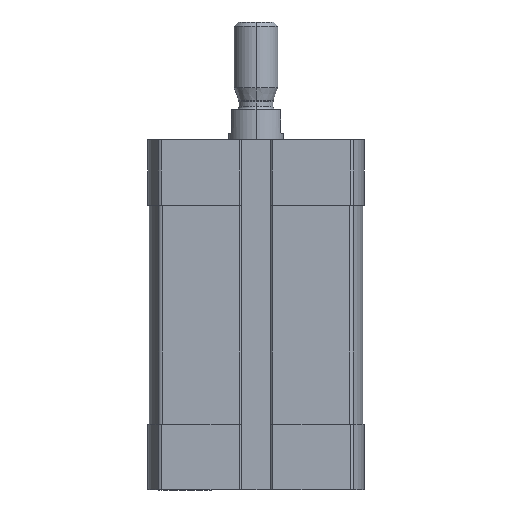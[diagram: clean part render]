
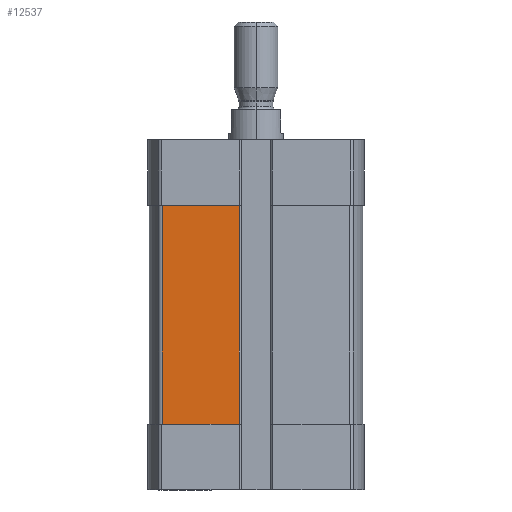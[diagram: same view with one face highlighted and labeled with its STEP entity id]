
A CAD part, left-side view. The second image highlights one B-rep face of the part: STEP entity #12537.
In plain terms, the highlighted planar face has unit normal (-1, 0, 0).
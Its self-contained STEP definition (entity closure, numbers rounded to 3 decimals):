
#770 = LINE ( 'NONE', #6632, #2987 ) ;
#1826 = VECTOR ( 'NONE', #12257, 1000. ) ;
#2037 = VECTOR ( 'NONE', #5203, 1000. ) ;
#2521 = VECTOR ( 'NONE', #9574, 1000. ) ;
#2841 = EDGE_CURVE ( 'NONE', #4312, #7330, #10505, .T. ) ;
#2941 = CARTESIAN_POINT ( 'NONE',  ( -19.5, 3.1, -12. ) ) ;
#2987 = VECTOR ( 'NONE', #5574, 1000. ) ;
#3186 = PLANE ( 'NONE',  #5069 ) ;
#4119 = CARTESIAN_POINT ( 'NONE',  ( -19.5, 0., -12. ) ) ;
#4312 = VERTEX_POINT ( 'NONE', #2941 ) ;
#4724 = EDGE_CURVE ( 'NONE', #7330, #9356, #4962, .T. ) ;
#4836 = EDGE_CURVE ( 'NONE', #9545, #4312, #770, .T. ) ;
#4962 = LINE ( 'NONE', #5329, #1826 ) ;
#5069 = AXIS2_PLACEMENT_3D ( 'NONE', #5325, #12252, #6411 ) ;
#5203 = DIRECTION ( 'NONE',  ( 0., 1., 0. ) ) ;
#5325 = CARTESIAN_POINT ( 'NONE',  ( -19.5, 17.091, -52. ) ) ;
#5329 = CARTESIAN_POINT ( 'NONE',  ( -19.5, 17.091, -52. ) ) ;
#5534 = EDGE_CURVE ( 'NONE', #9356, #9545, #10614, .T. ) ;
#5574 = DIRECTION ( 'NONE',  ( 0., 0., 1. ) ) ;
#6411 = DIRECTION ( 'NONE',  ( 0., 0., 1. ) ) ;
#6632 = CARTESIAN_POINT ( 'NONE',  ( -19.5, 3.1, -52. ) ) ;
#7330 = VERTEX_POINT ( 'NONE', #13159 ) ;
#8315 = ORIENTED_EDGE ( 'NONE', *, *, #4836, .T. ) ;
#8614 = CARTESIAN_POINT ( 'NONE',  ( -19.5, 17.091, -52. ) ) ;
#8668 = ORIENTED_EDGE ( 'NONE', *, *, #4724, .T. ) ;
#8978 = CARTESIAN_POINT ( 'NONE',  ( -19.5, 3.1, -52. ) ) ;
#9356 = VERTEX_POINT ( 'NONE', #10715 ) ;
#9545 = VERTEX_POINT ( 'NONE', #8978 ) ;
#9574 = DIRECTION ( 'NONE',  ( 0., -1., 0. ) ) ;
#9868 = ORIENTED_EDGE ( 'NONE', *, *, #5534, .T. ) ;
#10505 = LINE ( 'NONE', #4119, #2037 ) ;
#10614 = LINE ( 'NONE', #8614, #2521 ) ;
#10715 = CARTESIAN_POINT ( 'NONE',  ( -19.5, 17.091, -52. ) ) ;
#10774 = EDGE_LOOP ( 'NONE', ( #9868, #8315, #11634, #8668 ) ) ;
#11634 = ORIENTED_EDGE ( 'NONE', *, *, #2841, .T. ) ;
#12227 = FACE_OUTER_BOUND ( 'NONE', #10774, .T. ) ;
#12252 = DIRECTION ( 'NONE',  ( -1., 0., 0. ) ) ;
#12257 = DIRECTION ( 'NONE',  ( 0., 0., -1. ) ) ;
#12537 = ADVANCED_FACE ( 'NONE', ( #12227 ), #3186, .T. ) ;
#13159 = CARTESIAN_POINT ( 'NONE',  ( -19.5, 17.091, -12. ) ) ;
